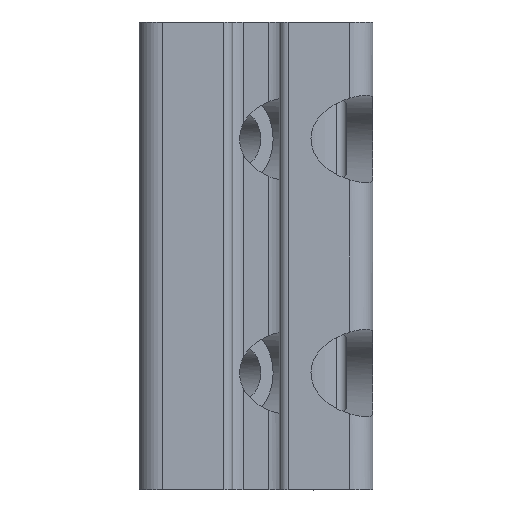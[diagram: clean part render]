
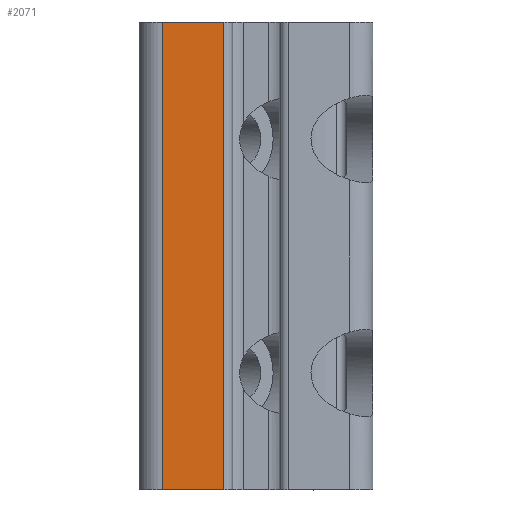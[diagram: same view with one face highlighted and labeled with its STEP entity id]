
A CAD part, left-side view. The second image highlights one B-rep face of the part: STEP entity #2071.
In plain terms, the highlighted planar face has unit normal (-1, 0, 0).
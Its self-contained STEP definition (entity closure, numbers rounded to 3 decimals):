
#30 = VECTOR ( 'NONE', #3620, 1000. ) ;
#72 = DIRECTION ( 'NONE',  ( 0., 0., 1. ) ) ;
#151 = EDGE_CURVE ( 'NONE', #2778, #2433, #3311, .T. ) ;
#393 = DIRECTION ( 'NONE',  ( 0., 0., -1. ) ) ;
#529 = ORIENTED_EDGE ( 'NONE', *, *, #151, .T. ) ;
#608 = ORIENTED_EDGE ( 'NONE', *, *, #3275, .T. ) ;
#662 = CARTESIAN_POINT ( 'NONE',  ( 0., 15.865, 0. ) ) ;
#672 = FACE_OUTER_BOUND ( 'NONE', #857, .T. ) ;
#857 = EDGE_LOOP ( 'NONE', ( #1444, #3413, #608, #529 ) ) ;
#991 = CARTESIAN_POINT ( 'NONE',  ( 0., 25.5, 0. ) ) ;
#1002 = VERTEX_POINT ( 'NONE', #1941 ) ;
#1021 = LINE ( 'NONE', #1295, #2457 ) ;
#1108 = VERTEX_POINT ( 'NONE', #1455 ) ;
#1295 = CARTESIAN_POINT ( 'NONE',  ( 0., 36., 0. ) ) ;
#1323 = DIRECTION ( 'NONE',  ( -1., 0., 0. ) ) ;
#1444 = ORIENTED_EDGE ( 'NONE', *, *, #2754, .F. ) ;
#1455 = CARTESIAN_POINT ( 'NONE',  ( 0., 25.5, 80. ) ) ;
#1580 = CARTESIAN_POINT ( 'NONE',  ( 0., 25.5, 0. ) ) ;
#1585 = AXIS2_PLACEMENT_3D ( 'NONE', #1580, #1323, #72 ) ;
#1941 = CARTESIAN_POINT ( 'NONE',  ( 0., 36., 80. ) ) ;
#2071 = ADVANCED_FACE ( 'NONE', ( #672 ), #2797, .T. ) ;
#2155 = CARTESIAN_POINT ( 'NONE',  ( 0., 25.5, 0. ) ) ;
#2433 = VERTEX_POINT ( 'NONE', #2155 ) ;
#2457 = VECTOR ( 'NONE', #2478, 1000. ) ;
#2478 = DIRECTION ( 'NONE',  ( 0., 0., -1. ) ) ;
#2482 = CARTESIAN_POINT ( 'NONE',  ( 0., 36., 0. ) ) ;
#2754 = EDGE_CURVE ( 'NONE', #1108, #2433, #2774, .T. ) ;
#2767 = VECTOR ( 'NONE', #393, 1000. ) ;
#2774 = LINE ( 'NONE', #991, #2767 ) ;
#2778 = VERTEX_POINT ( 'NONE', #2482 ) ;
#2797 = PLANE ( 'NONE',  #1585 ) ;
#3088 = CARTESIAN_POINT ( 'NONE',  ( 0., 15.865, 80. ) ) ;
#3275 = EDGE_CURVE ( 'NONE', #1002, #2778, #1021, .T. ) ;
#3311 = LINE ( 'NONE', #662, #30 ) ;
#3325 = VECTOR ( 'NONE', #3645, 1000. ) ;
#3394 = LINE ( 'NONE', #3088, #3325 ) ;
#3413 = ORIENTED_EDGE ( 'NONE', *, *, #3509, .F. ) ;
#3509 = EDGE_CURVE ( 'NONE', #1002, #1108, #3394, .T. ) ;
#3620 = DIRECTION ( 'NONE',  ( 0., -1., 0. ) ) ;
#3645 = DIRECTION ( 'NONE',  ( 0., -1., 0. ) ) ;
